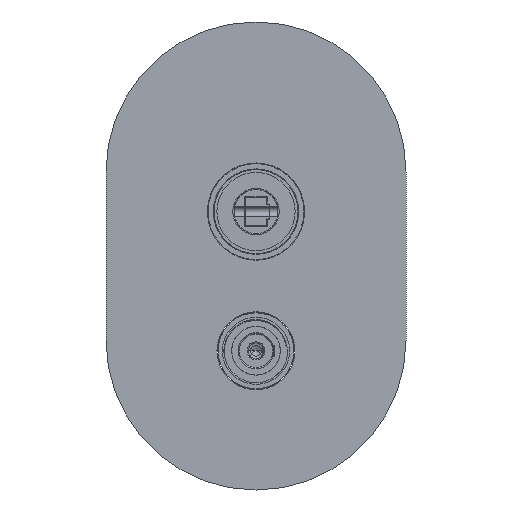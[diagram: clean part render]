
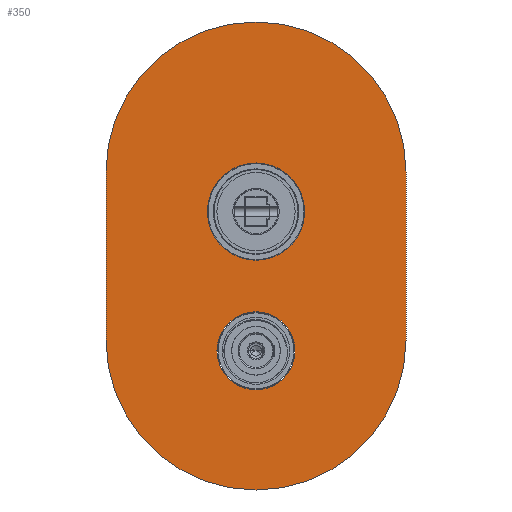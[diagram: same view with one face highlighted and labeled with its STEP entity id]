
A CAD part, front view. The second image highlights one B-rep face of the part: STEP entity #350.
In plain terms, the highlighted planar face has unit normal (0, -1, 0).
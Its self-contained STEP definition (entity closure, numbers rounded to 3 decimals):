
#93=DIRECTION('',(0.,0.,1.));
#94=VECTOR('',#93,70.);
#95=CARTESIAN_POINT('',(-62.5,4.,-32.5));
#96=LINE('',#95,#94);
#97=CARTESIAN_POINT('',(0.,4.,37.5));
#98=DIRECTION('',(0.,1.,0.));
#99=DIRECTION('',(-1.,0.,0.));
#100=AXIS2_PLACEMENT_3D('',#97,#98,#99);
#102=DIRECTION('',(0.,0.,-1.));
#103=VECTOR('',#102,70.);
#104=CARTESIAN_POINT('',(62.5,4.,37.5));
#105=LINE('',#104,#103);
#106=CARTESIAN_POINT('',(0.,4.,-32.5));
#107=DIRECTION('',(0.,1.,0.));
#108=DIRECTION('',(1.,0.,0.));
#109=AXIS2_PLACEMENT_3D('',#106,#107,#108);
#111=CARTESIAN_POINT('',(0.,4.,-37.));
#112=DIRECTION('',(0.,1.,0.));
#113=DIRECTION('',(1.,0.,0.));
#114=AXIS2_PLACEMENT_3D('',#111,#112,#113);
#116=CARTESIAN_POINT('',(0.,4.,-37.));
#117=DIRECTION('',(0.,1.,0.));
#118=DIRECTION('',(-1.,0.,0.));
#119=AXIS2_PLACEMENT_3D('',#116,#117,#118);
#121=CARTESIAN_POINT('',(0.,4.,21.));
#122=DIRECTION('',(0.,1.,0.));
#123=DIRECTION('',(1.,0.,0.));
#124=AXIS2_PLACEMENT_3D('',#121,#122,#123);
#126=CARTESIAN_POINT('',(0.,4.,21.));
#127=DIRECTION('',(0.,1.,0.));
#128=DIRECTION('',(-1.,0.,0.));
#129=AXIS2_PLACEMENT_3D('',#126,#127,#128);
#147=CARTESIAN_POINT('',(-62.5,4.,-32.5));
#148=CARTESIAN_POINT('',(-62.5,4.,37.5));
#149=VERTEX_POINT('',#147);
#150=VERTEX_POINT('',#148);
#151=CARTESIAN_POINT('',(62.5,4.,37.5));
#152=CARTESIAN_POINT('',(62.5,4.,-32.5));
#153=VERTEX_POINT('',#151);
#154=VERTEX_POINT('',#152);
#155=CARTESIAN_POINT('',(16.25,4.,-37.));
#156=CARTESIAN_POINT('',(-16.25,4.,-37.));
#157=VERTEX_POINT('',#155);
#158=VERTEX_POINT('',#156);
#159=CARTESIAN_POINT('',(20.25,4.,21.));
#160=CARTESIAN_POINT('',(-20.25,4.,21.));
#161=VERTEX_POINT('',#159);
#162=VERTEX_POINT('',#160);
#327=CARTESIAN_POINT('',(0.,4.,0.));
#328=DIRECTION('',(0.,1.,0.));
#329=DIRECTION('',(1.,0.,0.));
#330=AXIS2_PLACEMENT_3D('',#327,#328,#329);
#331=PLANE('',#330);
#332=ORIENTED_EDGE('',*,*,#321,.T.);
#333=ORIENTED_EDGE('',*,*,#279,.T.);
#334=ORIENTED_EDGE('',*,*,#294,.T.);
#335=ORIENTED_EDGE('',*,*,#308,.T.);
#336=EDGE_LOOP('',(#332,#333,#334,#335));
#337=FACE_OUTER_BOUND('',#336,.F.);
#339=ORIENTED_EDGE('',*,*,#338,.F.);
#341=ORIENTED_EDGE('',*,*,#340,.F.);
#342=EDGE_LOOP('',(#339,#341));
#343=FACE_BOUND('',#342,.F.);
#345=ORIENTED_EDGE('',*,*,#344,.F.);
#347=ORIENTED_EDGE('',*,*,#346,.F.);
#348=EDGE_LOOP('',(#345,#347));
#349=FACE_BOUND('',#348,.F.);
#350=ADVANCED_FACE('',(#337,#343,#349),#331,.F.);
#101=CIRCLE('',#100,62.5);
#110=CIRCLE('',#109,62.5);
#115=CIRCLE('',#114,16.25);
#120=CIRCLE('',#119,16.25);
#125=CIRCLE('',#124,20.25);
#130=CIRCLE('',#129,20.25);
#279=EDGE_CURVE('',#150,#153,#101,.T.);
#294=EDGE_CURVE('',#153,#154,#105,.T.);
#308=EDGE_CURVE('',#154,#149,#110,.T.);
#321=EDGE_CURVE('',#149,#150,#96,.T.);
#338=EDGE_CURVE('',#157,#158,#115,.T.);
#340=EDGE_CURVE('',#158,#157,#120,.T.);
#344=EDGE_CURVE('',#161,#162,#125,.T.);
#346=EDGE_CURVE('',#162,#161,#130,.T.);
